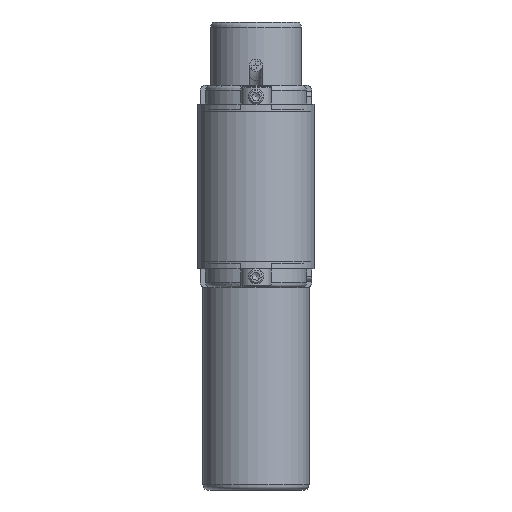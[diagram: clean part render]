
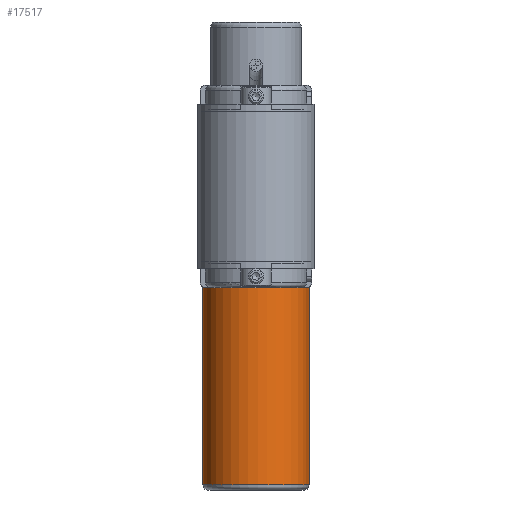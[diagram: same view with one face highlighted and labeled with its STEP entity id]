
A CAD part, front view. The second image highlights one B-rep face of the part: STEP entity #17517.
In plain terms, the highlighted cylindrical face has radius 21 mm (diameter 42 mm), a full revolution.
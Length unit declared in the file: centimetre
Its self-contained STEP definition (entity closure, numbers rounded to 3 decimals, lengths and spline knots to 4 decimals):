
#1957=FACE_OUTER_BOUND('',#2993,.T.);
#2993=EDGE_LOOP('',(#15401,#15402,#15403,#15404,#15405,#15406,#15407,#15408));
#4279=LINE('',#30401,#5562);
#5562=VECTOR('',#24053,2.1);
#6437=CIRCLE('',#19293,2.1);
#6438=CIRCLE('',#19294,2.1);
#6439=CIRCLE('',#19295,2.1);
#6442=CIRCLE('',#19300,2.1);
#6443=CIRCLE('',#19301,2.1);
#6444=CIRCLE('',#19302,2.1);
#8108=VERTEX_POINT('',#30382);
#8109=VERTEX_POINT('',#30384);
#8110=VERTEX_POINT('',#30386);
#8113=VERTEX_POINT('',#30396);
#8114=VERTEX_POINT('',#30397);
#8115=VERTEX_POINT('',#30399);
#10539=EDGE_CURVE('',#8109,#8108,#6437,.T.);
#10540=EDGE_CURVE('',#8110,#8109,#6438,.T.);
#10541=EDGE_CURVE('',#8108,#8110,#6439,.T.);
#10545=EDGE_CURVE('',#8113,#8114,#6442,.T.);
#10546=EDGE_CURVE('',#8115,#8113,#6443,.T.);
#10547=EDGE_CURVE('',#8115,#8109,#4279,.T.);
#10548=EDGE_CURVE('',#8114,#8115,#6444,.T.);
#15401=ORIENTED_EDGE('',*,*,#10545,.F.);
#15402=ORIENTED_EDGE('',*,*,#10546,.F.);
#15403=ORIENTED_EDGE('',*,*,#10547,.T.);
#15404=ORIENTED_EDGE('',*,*,#10539,.T.);
#15405=ORIENTED_EDGE('',*,*,#10541,.T.);
#15406=ORIENTED_EDGE('',*,*,#10540,.T.);
#15407=ORIENTED_EDGE('',*,*,#10547,.F.);
#15408=ORIENTED_EDGE('',*,*,#10548,.F.);
#15706=CYLINDRICAL_SURFACE('',#19299,2.1);
#17517=ADVANCED_FACE('',(#1957),#15706,.T.);
#19293=AXIS2_PLACEMENT_3D('',#30385,#24034,#24035);
#19294=AXIS2_PLACEMENT_3D('',#30387,#24036,#24037);
#19295=AXIS2_PLACEMENT_3D('',#30388,#24038,#24039);
#19299=AXIS2_PLACEMENT_3D('',#30395,#24047,#24048);
#19300=AXIS2_PLACEMENT_3D('',#30398,#24049,#24050);
#19301=AXIS2_PLACEMENT_3D('',#30400,#24051,#24052);
#19302=AXIS2_PLACEMENT_3D('',#30402,#24054,#24055);
#24034=DIRECTION('center_axis',(0.,0.,
-1.));
#24035=DIRECTION('ref_axis',(-0.667,0.745,0.));
#24036=DIRECTION('center_axis',(0.,0.,
-1.));
#24037=DIRECTION('ref_axis',(-0.667,0.745,0.));
#24038=DIRECTION('center_axis',(0.,0.,
-1.));
#24039=DIRECTION('ref_axis',(-0.667,0.745,0.));
#24047=DIRECTION('center_axis',(0.,0.,
-1.));
#24048=DIRECTION('ref_axis',(-0.667,0.745,0.));
#24049=DIRECTION('center_axis',(0.,0.,
-1.));
#24050=DIRECTION('ref_axis',(-0.667,0.745,0.));
#24051=DIRECTION('center_axis',(0.,0.,
-1.));
#24052=DIRECTION('ref_axis',(-0.667,0.745,0.));
#24053=DIRECTION('',(0.,0.,1.));
#24054=DIRECTION('center_axis',(0.,0.,
-1.));
#24055=DIRECTION('ref_axis',(-0.667,0.745,0.));
#30382=CARTESIAN_POINT('',(-1.5649,5.4896,-4.));
#30384=CARTESIAN_POINT('',(1.4004,5.3251,-4.));
#30385=CARTESIAN_POINT('Origin',(0.,6.89,-4.));
#30386=CARTESIAN_POINT('',(-1.4004,8.4549,-4.));
#30387=CARTESIAN_POINT('Origin',(0.,6.89,-4.));
#30388=CARTESIAN_POINT('Origin',(0.,6.89,-4.));
#30395=CARTESIAN_POINT('Origin',(0.,6.89,-7.55));
#30396=CARTESIAN_POINT('',(-1.4004,8.4549,-11.8));
#30397=CARTESIAN_POINT('',(1.5649,8.2904,-11.8));
#30398=CARTESIAN_POINT('Origin',(0.,6.89,-11.8));
#30399=CARTESIAN_POINT('',(1.4004,5.3251,-11.8));
#30400=CARTESIAN_POINT('Origin',(0.,6.89,-11.8));
#30401=CARTESIAN_POINT('',(1.4004,5.3251,-7.55));
#30402=CARTESIAN_POINT('Origin',(0.,6.89,-11.8));
